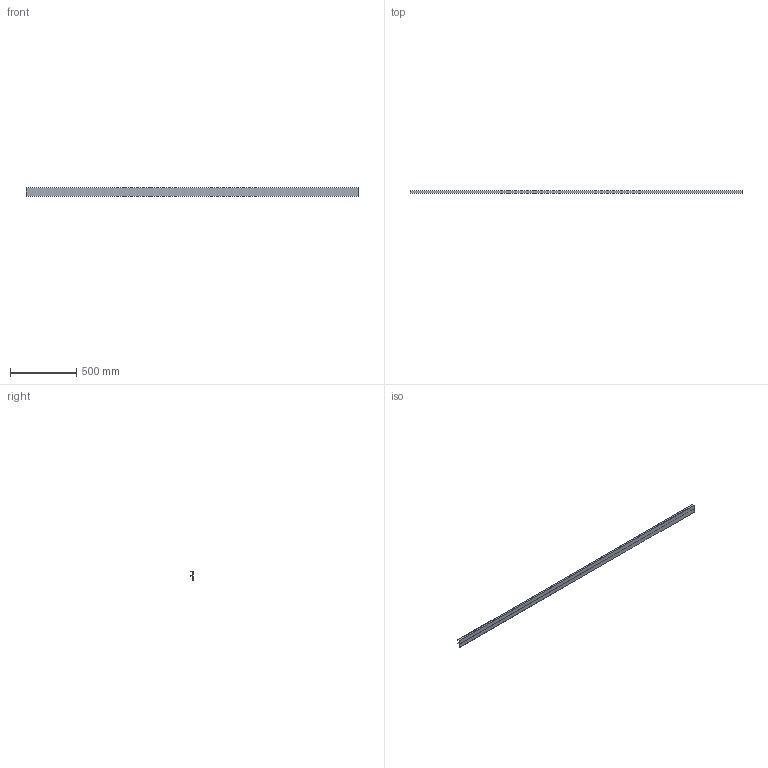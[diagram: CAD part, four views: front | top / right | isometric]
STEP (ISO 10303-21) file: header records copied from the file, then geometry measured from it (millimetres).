
FILE_DESCRIPTION(('STEP AP242'),'1');
FILE_NAME('OPO_65.082.06.stp','2026-01-30T20:52:42',(' '),(' '),'Spatial InterOp 3D',' ',' ');
FILE_SCHEMA(('AP242_MANAGED_MODEL_BASED_3D_ENGINEERING_MIM_LF {1 0 10303 442 1 1 4}'));
Length unit declared in the file: millimetre
Products named in the file (1): 1
Bounding box: 2500 x 15.5 x 65 mm (x, y, z)
Volume: 245000 mm3; surface area: 495196 mm2
Topology: 1 solids, 1 shells, 60 faces, 160 edges, 106 vertices
Faces by surface type: plane 40, cylinder 20
Entity records: 2364 total; most frequent: CARTESIAN_POINT 327, DIRECTION 322, ORIENTED_EDGE 320, EDGE_CURVE 160, LINE 120, VECTOR 120, VERTEX_POINT 106, AXIS2_PLACEMENT_3D 101
